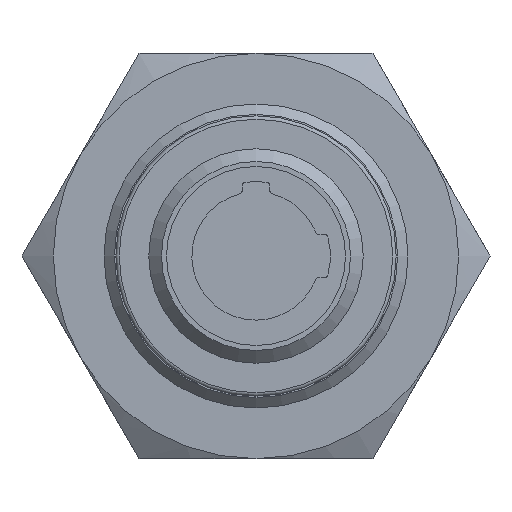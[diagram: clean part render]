
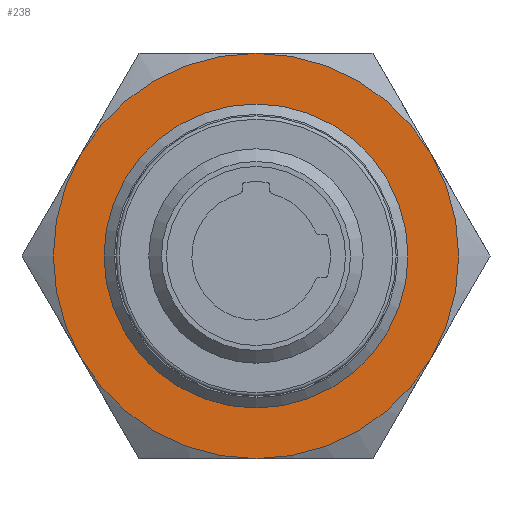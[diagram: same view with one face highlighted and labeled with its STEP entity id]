
A CAD part, left-side view. The second image highlights one B-rep face of the part: STEP entity #238.
In plain terms, the highlighted planar face has unit normal (-1, 0, 0) as drawn and (1, 0, 0) by its records, which use the part's own axes.
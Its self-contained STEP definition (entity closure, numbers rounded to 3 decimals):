
#238 = ADVANCED_FACE( '', ( #394, #395 ), #396, .F. );
#394 = FACE_BOUND( '', #563, .T. );
#395 = FACE_OUTER_BOUND( '', #564, .T. );
#396 = PLANE( '', #565 );
#563 = EDGE_LOOP( '', ( #960 ) );
#564 = EDGE_LOOP( '', ( #961, #962, #963, #964, #965, #966 ) );
#565 = AXIS2_PLACEMENT_3D( '', #967, #968, #969 );
#960 = ORIENTED_EDGE( '', *, *, #1145, .F. );
#961 = ORIENTED_EDGE( '', *, *, #1146, .T. );
#962 = ORIENTED_EDGE( '', *, *, #1141, .T. );
#963 = ORIENTED_EDGE( '', *, *, #1144, .T. );
#964 = ORIENTED_EDGE( '', *, *, #1140, .T. );
#965 = ORIENTED_EDGE( '', *, *, #1147, .T. );
#966 = ORIENTED_EDGE( '', *, *, #1143, .T. );
#967 = CARTESIAN_POINT( '', ( 4., 12., 0. ) );
#968 = DIRECTION( '', ( -1., 0., 0. ) );
#969 = DIRECTION( '', ( 0., 0., 1. ) );
#1140 = EDGE_CURVE( '', #1306, #1341, #1343, .T. );
#1141 = EDGE_CURVE( '', #1323, #1316, #1344, .T. );
#1143 = EDGE_CURVE( '', #1345, #1333, #1347, .T. );
#1144 = EDGE_CURVE( '', #1316, #1306, #1348, .T. );
#1145 = EDGE_CURVE( '', #1349, #1349, #1350, .T. );
#1146 = EDGE_CURVE( '', #1333, #1323, #1351, .T. );
#1147 = EDGE_CURVE( '', #1341, #1345, #1352, .T. );
#1306 = VERTEX_POINT( '', #1899 );
#1316 = VERTEX_POINT( '', #1946 );
#1323 = VERTEX_POINT( '', #1973 );
#1333 = VERTEX_POINT( '', #2008 );
#1341 = VERTEX_POINT( '', #2041 );
#1343 = CIRCLE( '', #2048, 12. );
#1344 = CIRCLE( '', #2049, 12. );
#1345 = VERTEX_POINT( '', #2050 );
#1347 = CIRCLE( '', #2059, 12. );
#1348 = CIRCLE( '', #2060, 12. );
#1349 = VERTEX_POINT( '', #2061 );
#1350 = CIRCLE( '', #2062, 9. );
#1351 = CIRCLE( '', #2063, 12. );
#1352 = CIRCLE( '', #2064, 12. );
#1899 = CARTESIAN_POINT( '', ( 4., 0., 12. ) );
#1946 = CARTESIAN_POINT( '', ( 4., 10.392, 6. ) );
#1973 = CARTESIAN_POINT( '', ( 4., 10.392, -6. ) );
#2008 = CARTESIAN_POINT( '', ( 4., 0., -12. ) );
#2041 = CARTESIAN_POINT( '', ( 4., -10.392, 6. ) );
#2048 = AXIS2_PLACEMENT_3D( '', #2287, #2288, #2289 );
#2049 = AXIS2_PLACEMENT_3D( '', #2290, #2291, #2292 );
#2050 = CARTESIAN_POINT( '', ( 4., -10.392, -6. ) );
#2059 = AXIS2_PLACEMENT_3D( '', #2293, #2294, #2295 );
#2060 = AXIS2_PLACEMENT_3D( '', #2296, #2297, #2298 );
#2061 = CARTESIAN_POINT( '', ( 4., 0., -9. ) );
#2062 = AXIS2_PLACEMENT_3D( '', #2299, #2300, #2301 );
#2063 = AXIS2_PLACEMENT_3D( '', #2302, #2303, #2304 );
#2064 = AXIS2_PLACEMENT_3D( '', #2305, #2306, #2307 );
#2287 = CARTESIAN_POINT( '', ( 4., 0., 0. ) );
#2288 = DIRECTION( '', ( 1., 0., 0. ) );
#2289 = DIRECTION( '', ( 0., 0., -1. ) );
#2290 = CARTESIAN_POINT( '', ( 4., 0., 0. ) );
#2291 = DIRECTION( '', ( 1., 0., 0. ) );
#2292 = DIRECTION( '', ( 0., 0., -1. ) );
#2293 = CARTESIAN_POINT( '', ( 4., 0., 0. ) );
#2294 = DIRECTION( '', ( 1., 0., 0. ) );
#2295 = DIRECTION( '', ( 0., 0., -1. ) );
#2296 = CARTESIAN_POINT( '', ( 4., 0., 0. ) );
#2297 = DIRECTION( '', ( 1., 0., 0. ) );
#2298 = DIRECTION( '', ( 0., 0., -1. ) );
#2299 = CARTESIAN_POINT( '', ( 4., 0., 0. ) );
#2300 = DIRECTION( '', ( 1., 0., 0. ) );
#2301 = DIRECTION( '', ( 0., 0., -1. ) );
#2302 = CARTESIAN_POINT( '', ( 4., 0., 0. ) );
#2303 = DIRECTION( '', ( 1., 0., 0. ) );
#2304 = DIRECTION( '', ( 0., 0., -1. ) );
#2305 = CARTESIAN_POINT( '', ( 4., 0., 0. ) );
#2306 = DIRECTION( '', ( 1., 0., 0. ) );
#2307 = DIRECTION( '', ( 0., 0., -1. ) );
